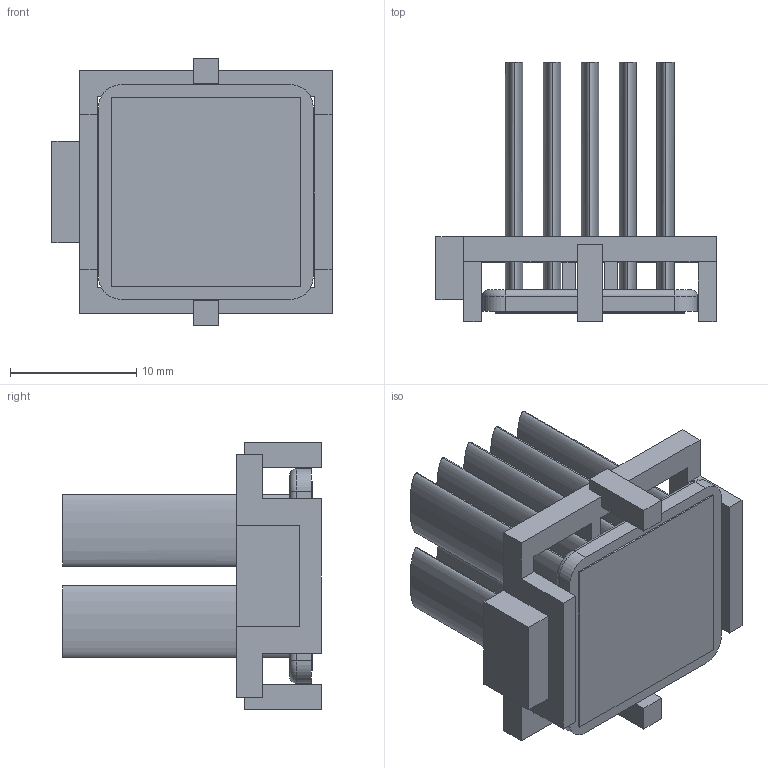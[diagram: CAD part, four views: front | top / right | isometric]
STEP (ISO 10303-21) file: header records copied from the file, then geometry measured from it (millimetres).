
FILE_DESCRIPTION (( 'STEP AP214' ), '1' );
FILE_NAME ('INM17001-20W-1.7O.STEP', '2023-03-01T23:06:54', ( '' ), ( '' ), 'SwSTEP 2.0', 'SolidWorks 2020', '' );
FILE_SCHEMA (( 'AUTOMOTIVE_DESIGN' ));
Length unit declared in the file: millimetre
Products named in the file (1): INM17001-20W-1.7O
Bounding box: 22.2 x 20.5 x 21.2 mm (x, y, z)
Volume: 2213.2 mm3; surface area: 4369.3 mm2
Topology: 3 solids, 3 shells, 99 faces, 244 edges, 160 vertices
Faces by surface type: plane 67, bspline 20, cylinder 8, torus 4
Entity records: 4079 total; most frequent: CARTESIAN_POINT 764, ORIENTED_EDGE 488, DIRECTION 384, EDGE_CURVE 244, VECTOR 184, LINE 184, VERTEX_POINT 160, EDGE_LOOP 110
